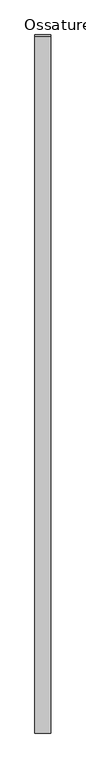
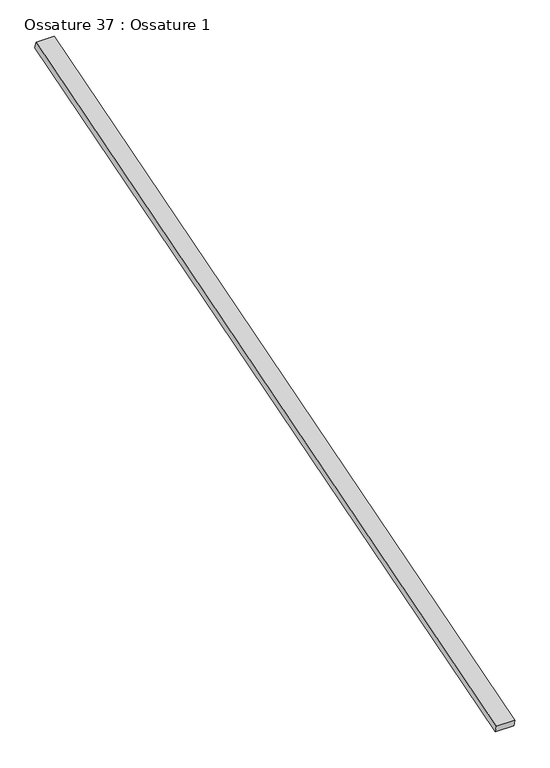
"""IFC4 building model written with IfcOpenShell, lengths in millimetres: beam geometry, Ossature 37 : Ossature 1."""

from ifc_helpers import new_model, si_unit, frame, origin, place, context, project, spatial, polyline, outline, extrude, source, transform, mapped, element, save


def ossature_37_ossature_1_d3dd8560(model_context):
    return source(origin(), model_context, "Body", "SweptSolid", [
        extrude(outline(polyline([(0.0, 0.0), (0.0, -4543.0299679), (-100.0, -4543.0299679), (-100.0, 0.0), (0.0, 0.0)])), frame((9114.2466393, -833.3913565, 8153.6336115), z_axis=(0.0, -0.28734788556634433, 0.9578262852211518), x_axis=(-1.0, 0.0, 0.0)), (0.0, 0.0, 1.0), 40.0),
    ])


if __name__ == "__main__":
    model = new_model("IFC4")
    model_context = context("Model", 3, world=origin())
    ifc_project = project(units=[si_unit("LENGTHUNIT", "METRE", prefix="MILLI")], contexts=[model_context])
    site = spatial("IfcSite", under=ifc_project)
    building = spatial("IfcBuilding", under=site)
    placement = place(None, origin())
    ossature_37_ossature_1_shape = ossature_37_ossature_1_d3dd8560(model_context)
    element("IfcBeam", 1, ObjectType="Ossature 37 : Ossature 1", at=placement, inside=building, context=model_context, shape_type="MappedRepresentation", body=[
        mapped(ossature_37_ossature_1_shape, transform((0.0, 0.0, 0.0), x_axis=(1.0, 0.0, 0.0), y_axis=(0.0, 1.0, 0.0), z_axis=(0.0, 0.0, 1.0))),
    ])
    save(model, "model.ifc")
